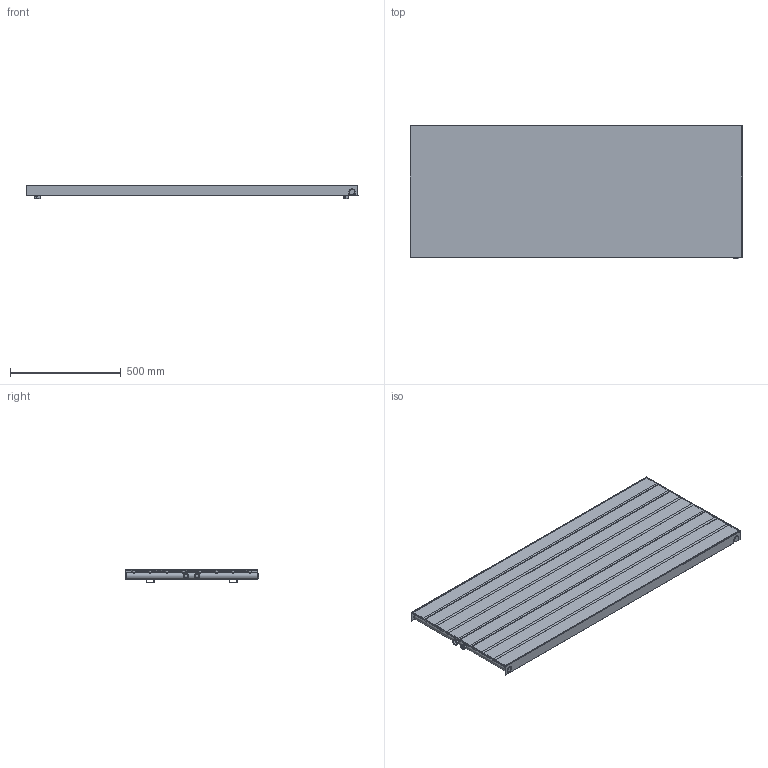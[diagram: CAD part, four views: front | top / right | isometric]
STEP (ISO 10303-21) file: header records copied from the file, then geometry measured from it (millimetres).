
FILE_DESCRIPTION(/* description */ (''),/* implementation_level */ '2;1');
FILE_NAME(/* name */ 'C:\Grzejniki\13DLUXRAD\pokojowe\NIAGARA\to\NIAGARA z osłoną w kolorze standardowym 1500x600.iam.stp',/* time_stamp */ '2016-06-28T17:34:11+02:00',/* author */ ('m.szydziak'),/* organization */ (''),/* preprocessor_version */ 'ST-DEVELOPER v16.5',/* originating_system */ 'Autodesk Inventor 2017',/* authorisation */ '');
FILE_SCHEMA (('CONFIG_CONTROL_DESIGN','AUTOMOTIVE_DESIGN { 1 0 10303 214 3 1 1 }'));
Length unit declared in the file: millimetre
Products named in the file (12): NIAGARA z osłoną w kolorze standa
rdowym 1500x600; NIAGARA 1500x600 osłona; NIAGARA 1500x595 ZDC; fi30x1,5x595; 70x8x1,2x1504; michałek; ucho duze; ucho duze 2; poprzeczka 545; ZDC dzwonki; dzwonek G0,5inch; korek
Assembly tree (39 placements, depth 4):
  NIAGARA z osłoną w kolorze standa
rdowym 1500x600
    NIAGARA 1500x600 osłona
    NIAGARA 1500x595 ZDC
      fi30x1,5x595  x2
      70x8x1,2x1504  x8
      michałek  x16
      ucho duze  x2
      ucho duze 2  x2
      poprzeczka 545  x3
      ZDC dzwonki
        dzwonek G0,5inch  x2
      korek
Bounding box: 1502 x 603.5 x 63.3 mm (x, y, z)
Volume: 3236989.4 mm3; surface area: 5977298.7 mm2
Topology: 37 solids, 37 shells, 509 faces, 1099 edges, 664 vertices
Faces by surface type: plane 247, cylinder 194, sphere 64, cone 2, bspline 2
Full cylindrical faces by diameter (mm): 8 x16, 9 x16, 10 x16, 11.5 x16, 16 x2, 18.5 x2, 18.631 x6, 22.9 x2, 24 x1, 25.3 x2, 27 x2, 30 x2
Entity records: 5172 total; most frequent: DIRECTION 902, CARTESIAN_POINT 902, ORIENTED_EDGE 722, EDGE_CURVE 361, AXIS2_PLACEMENT_3D 330, LINE 242, VECTOR 242, VERTEX_POINT 228
